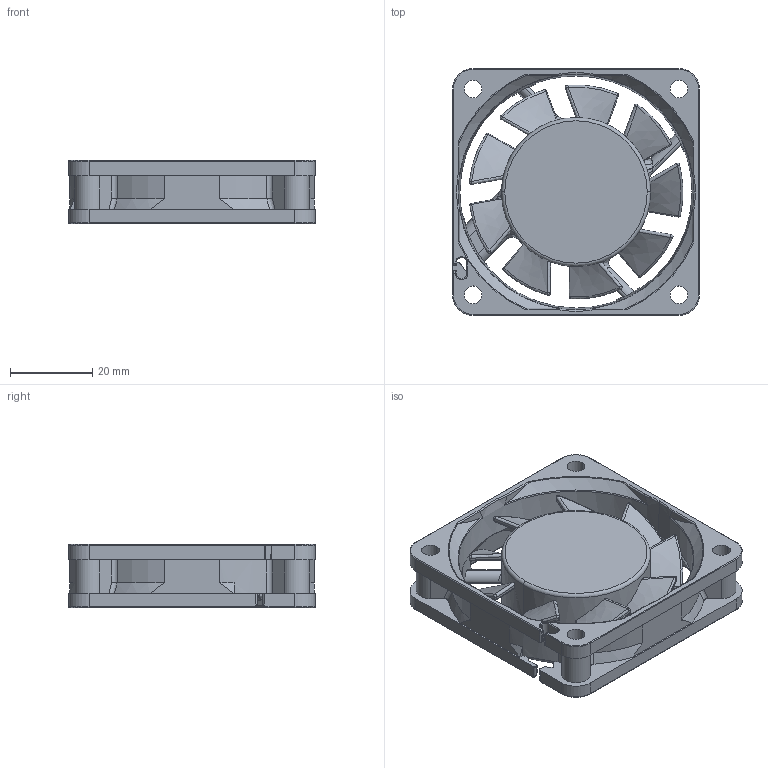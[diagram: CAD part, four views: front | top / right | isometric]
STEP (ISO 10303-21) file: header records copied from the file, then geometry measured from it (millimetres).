
FILE_DESCRIPTION (( 'STEP AP214' ), '1' );
FILE_NAME ('6015WF_RIBBED.STEP', '2017-03-14T06:01:45', ( '' ), ( '' ), 'SwSTEP 2.0', 'SolidWorks 2017', '' );
FILE_SCHEMA (( 'AUTOMOTIVE_DESIGN' ));
Length unit declared in the file: millimetre
Products named in the file (1): 6015WF_RIBBED
Bounding box: 60 x 60 x 15.35 mm (x, y, z)
Volume: 26962.3 mm3; surface area: 15906.1 mm2
Topology: 1 solids, 1 shells, 506 faces, 1266 edges, 751 vertices
Faces by surface type: bspline 145, cylinder 142, plane 90, sphere 54, torus 49, cone 26
Entity records: 20042 total; most frequent: CARTESIAN_POINT 9216, ORIENTED_EDGE 2498, DIRECTION 1975, EDGE_CURVE 1249, AXIS2_PLACEMENT_3D 826, VERTEX_POINT 751, EDGE_LOOP 528, ADVANCED_FACE 506
